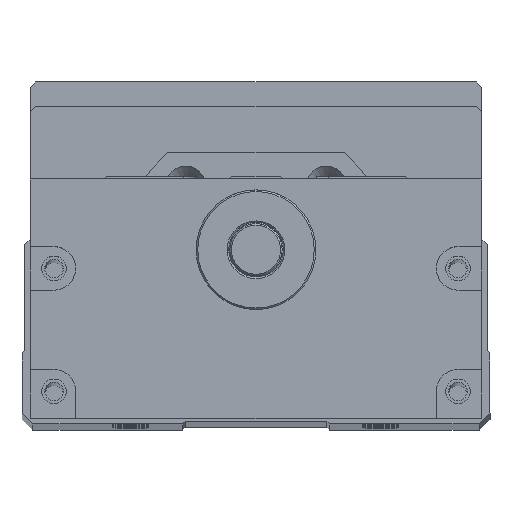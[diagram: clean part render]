
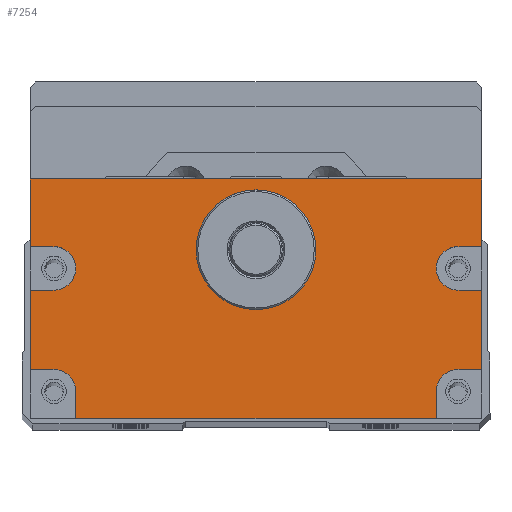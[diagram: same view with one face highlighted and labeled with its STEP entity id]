
A CAD part, top view. The second image highlights one B-rep face of the part: STEP entity #7254.
In plain terms, the highlighted planar face has unit normal (0, 0, 1).
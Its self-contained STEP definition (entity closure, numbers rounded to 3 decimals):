
#625=LINE('',#28641,#1303);
#627=LINE('',#28645,#1305);
#628=LINE('',#28648,#1306);
#629=LINE('',#28650,#1307);
#630=LINE('',#28654,#1308);
#631=LINE('',#28656,#1309);
#632=LINE('',#28657,#1310);
#633=LINE('',#28659,#1311);
#634=LINE('',#28663,#1312);
#635=LINE('',#28665,#1313);
#636=LINE('',#28667,#1314);
#637=LINE('',#28671,#1315);
#638=LINE('',#28673,#1316);
#639=LINE('',#28675,#1317);
#1303=VECTOR('',#17092,1.);
#1305=VECTOR('',#17096,1.);
#1306=VECTOR('',#17097,1.);
#1307=VECTOR('',#17098,1.);
#1308=VECTOR('',#17101,1.);
#1309=VECTOR('',#17102,1.);
#1310=VECTOR('',#17103,1.);
#1311=VECTOR('',#17104,1.);
#1312=VECTOR('',#17107,1.);
#1313=VECTOR('',#17108,1.);
#1314=VECTOR('',#17109,1.);
#1315=VECTOR('',#17112,1.);
#1316=VECTOR('',#17113,1.);
#1317=VECTOR('',#17114,1.);
#7254=ADVANCED_FACE('',(#8161,#8162),#7761,.T.);
#7761=PLANE('',#15546);
#8161=FACE_BOUND('',#8781,.T.);
#8162=FACE_BOUND('',#8782,.T.);
#8781=EDGE_LOOP('',(#10309,#10310,#10311,#10312,#10313,#10314,#10315,#10316,
#10317,#10318,#10319,#10320,#10321,#10322,#10323,#10324,#10325,#10326));
#8782=EDGE_LOOP('',(#10327));
#10309=ORIENTED_EDGE('',*,*,#13791,.F.);
#10310=ORIENTED_EDGE('',*,*,#13792,.T.);
#10311=ORIENTED_EDGE('',*,*,#13793,.F.);
#10312=ORIENTED_EDGE('',*,*,#13794,.F.);
#10313=ORIENTED_EDGE('',*,*,#13795,.F.);
#10314=ORIENTED_EDGE('',*,*,#13796,.T.);
#10315=ORIENTED_EDGE('',*,*,#13789,.T.);
#10316=ORIENTED_EDGE('',*,*,#13797,.T.);
#10317=ORIENTED_EDGE('',*,*,#13798,.F.);
#10318=ORIENTED_EDGE('',*,*,#13799,.F.);
#10319=ORIENTED_EDGE('',*,*,#13800,.F.);
#10320=ORIENTED_EDGE('',*,*,#13801,.T.);
#10321=ORIENTED_EDGE('',*,*,#13802,.F.);
#10322=ORIENTED_EDGE('',*,*,#13803,.F.);
#10323=ORIENTED_EDGE('',*,*,#13804,.F.);
#10324=ORIENTED_EDGE('',*,*,#13805,.T.);
#10325=ORIENTED_EDGE('',*,*,#13806,.F.);
#10326=ORIENTED_EDGE('',*,*,#13807,.F.);
#10327=ORIENTED_EDGE('',*,*,#13775,.T.);
#12609=VERTEX_POINT('',#28612);
#12622=VERTEX_POINT('',#28640);
#12623=VERTEX_POINT('',#28642);
#12624=VERTEX_POINT('',#28646);
#12625=VERTEX_POINT('',#28647);
#12626=VERTEX_POINT('',#28649);
#12627=VERTEX_POINT('',#28651);
#12628=VERTEX_POINT('',#28653);
#12629=VERTEX_POINT('',#28655);
#12630=VERTEX_POINT('',#28658);
#12631=VERTEX_POINT('',#28660);
#12632=VERTEX_POINT('',#28662);
#12633=VERTEX_POINT('',#28664);
#12634=VERTEX_POINT('',#28666);
#12635=VERTEX_POINT('',#28668);
#12636=VERTEX_POINT('',#28670);
#12637=VERTEX_POINT('',#28672);
#12638=VERTEX_POINT('',#28674);
#12639=VERTEX_POINT('',#28676);
#13775=EDGE_CURVE('',#12609,#12609,#14914,.T.);
#13789=EDGE_CURVE('',#12623,#12622,#625,.T.);
#13791=EDGE_CURVE('',#12624,#12625,#627,.T.);
#13792=EDGE_CURVE('',#12624,#12626,#628,.T.);
#13793=EDGE_CURVE('',#12627,#12626,#629,.T.);
#13794=EDGE_CURVE('',#12628,#12627,#14923,.T.);
#13795=EDGE_CURVE('',#12629,#12628,#630,.T.);
#13796=EDGE_CURVE('',#12629,#12623,#631,.T.);
#13797=EDGE_CURVE('',#12622,#12630,#632,.T.);
#13798=EDGE_CURVE('',#12631,#12630,#633,.T.);
#13799=EDGE_CURVE('',#12632,#12631,#14924,.T.);
#13800=EDGE_CURVE('',#12633,#12632,#634,.T.);
#13801=EDGE_CURVE('',#12633,#12634,#635,.T.);
#13802=EDGE_CURVE('',#12635,#12634,#636,.T.);
#13803=EDGE_CURVE('',#12636,#12635,#14925,.T.);
#13804=EDGE_CURVE('',#12637,#12636,#637,.T.);
#13805=EDGE_CURVE('',#12637,#12638,#638,.T.);
#13806=EDGE_CURVE('',#12639,#12638,#639,.T.);
#13807=EDGE_CURVE('',#12625,#12639,#14926,.T.);
#14914=CIRCLE('',#15530,11.);
#14923=CIRCLE('',#15542,4.);
#14924=CIRCLE('',#15543,4.);
#14925=CIRCLE('',#15544,4.);
#14926=CIRCLE('',#15545,4.);
#15530=AXIS2_PLACEMENT_3D('',#28611,#17065,#17066);
#15542=AXIS2_PLACEMENT_3D('',#28652,#17099,#17100);
#15543=AXIS2_PLACEMENT_3D('',#28661,#17105,#17106);
#15544=AXIS2_PLACEMENT_3D('',#28669,#17110,#17111);
#15545=AXIS2_PLACEMENT_3D('',#28677,#17115,#17116);
#15546=AXIS2_PLACEMENT_3D('',#28678,#17117,#17118);
#17065=DIRECTION('',(0.,0.,-1.));
#17066=DIRECTION('',(1.,0.,0.));
#17092=DIRECTION('',(-1.,0.,0.));
#17096=DIRECTION('',(-1.,0.,0.));
#17097=DIRECTION('',(0.,1.,0.));
#17098=DIRECTION('',(1.,0.,0.));
#17099=DIRECTION('',(0.,0.,1.));
#17100=DIRECTION('',(1.,0.,0.));
#17101=DIRECTION('',(-1.,0.,0.));
#17102=DIRECTION('',(0.,1.,0.));
#17103=DIRECTION('',(0.,-1.,0.));
#17104=DIRECTION('',(-1.,0.,0.));
#17105=DIRECTION('',(0.,0.,1.));
#17106=DIRECTION('',(1.,0.,0.));
#17107=DIRECTION('',(1.,0.,0.));
#17108=DIRECTION('',(0.,-1.,0.));
#17109=DIRECTION('',(-1.,0.,0.));
#17110=DIRECTION('',(0.,0.,1.));
#17111=DIRECTION('',(1.,0.,0.));
#17112=DIRECTION('',(0.,1.,0.));
#17113=DIRECTION('',(1.,0.,0.));
#17114=DIRECTION('',(0.,-1.,0.));
#17115=DIRECTION('',(0.,0.,1.));
#17116=DIRECTION('',(1.,0.,0.));
#17117=DIRECTION('',(0.,0.,1.));
#17118=DIRECTION('',(1.,0.,0.));
#28611=CARTESIAN_POINT('',(300.,0.,482.5));
#28612=CARTESIAN_POINT('',(311.,0.,482.5));
#28640=CARTESIAN_POINT('',(258.5,13.,482.5));
#28641=CARTESIAN_POINT('',(341.5,13.,482.5));
#28642=CARTESIAN_POINT('',(341.5,13.,482.5));
#28645=CARTESIAN_POINT('',(341.5,-22.,482.5));
#28646=CARTESIAN_POINT('',(341.5,-22.,482.5));
#28647=CARTESIAN_POINT('',(337.115,-22.,482.5));
#28648=CARTESIAN_POINT('',(341.5,-31.,482.5));
#28649=CARTESIAN_POINT('',(341.5,-7.431,482.5));
#28650=CARTESIAN_POINT('',(341.5,-7.431,482.5));
#28651=CARTESIAN_POINT('',(337.115,-7.431,482.5));
#28652=CARTESIAN_POINT('',(337.115,-3.431,482.5));
#28653=CARTESIAN_POINT('',(337.115,0.569,482.5));
#28654=CARTESIAN_POINT('',(341.5,0.569,482.5));
#28655=CARTESIAN_POINT('',(341.5,0.569,482.5));
#28656=CARTESIAN_POINT('',(341.5,-31.,482.5));
#28657=CARTESIAN_POINT('',(258.5,27.5,482.5));
#28658=CARTESIAN_POINT('',(258.5,0.569,482.5));
#28659=CARTESIAN_POINT('',(341.5,0.569,482.5));
#28660=CARTESIAN_POINT('',(262.885,0.569,482.5));
#28661=CARTESIAN_POINT('',(262.885,-3.431,482.5));
#28662=CARTESIAN_POINT('',(262.885,-7.431,482.5));
#28663=CARTESIAN_POINT('',(341.5,-7.431,482.5));
#28664=CARTESIAN_POINT('',(258.5,-7.431,482.5));
#28665=CARTESIAN_POINT('',(258.5,27.5,482.5));
#28666=CARTESIAN_POINT('',(258.5,-22.,482.5));
#28667=CARTESIAN_POINT('',(341.5,-22.,482.5));
#28668=CARTESIAN_POINT('',(262.885,-22.,482.5));
#28669=CARTESIAN_POINT('',(262.885,-26.,482.5));
#28670=CARTESIAN_POINT('',(266.885,-26.,482.5));
#28671=CARTESIAN_POINT('',(266.885,-31.,482.5));
#28672=CARTESIAN_POINT('',(266.885,-31.,482.5));
#28673=CARTESIAN_POINT('',(258.5,-31.,482.5));
#28674=CARTESIAN_POINT('',(333.115,-31.,482.5));
#28675=CARTESIAN_POINT('',(333.115,-31.,482.5));
#28676=CARTESIAN_POINT('',(333.115,-26.,482.5));
#28677=CARTESIAN_POINT('',(337.115,-26.,482.5));
#28678=CARTESIAN_POINT('',(341.5,-31.,482.5));
